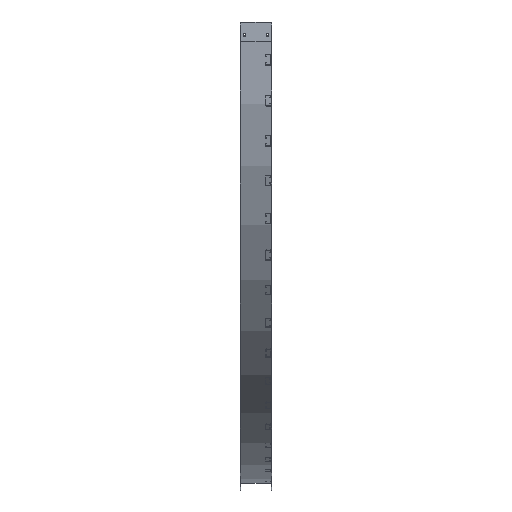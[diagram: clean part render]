
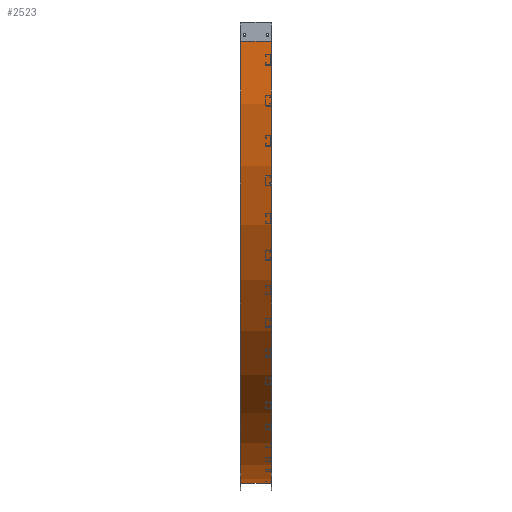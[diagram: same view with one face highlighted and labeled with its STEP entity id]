
A CAD part, left-side view. The second image highlights one B-rep face of the part: STEP entity #2523.
In plain terms, the highlighted cylindrical face has radius 1833.12 mm (diameter 3666.24 mm), a partial arc.
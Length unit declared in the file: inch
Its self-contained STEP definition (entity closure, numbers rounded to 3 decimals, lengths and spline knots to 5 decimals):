
#1560=CARTESIAN_POINT('',(-4.995,-72.09,3.));
#1561=DIRECTION('',(1.,0.,0.));
#1562=DIRECTION('',(0.,1.,0.));
#1563=AXIS2_PLACEMENT_3D('',#1560,#1561,#1562);
#1753=DIRECTION('',(-1.,0.,0.));
#1754=VECTOR('',#1753,4.91);
#1755=CARTESIAN_POINT('',(-0.085,-72.09,75.17));
#1756=LINE('',#1755,#1754);
#1793=DIRECTION('',(-1.,0.,0.));
#1794=VECTOR('',#1793,4.91);
#1795=CARTESIAN_POINT('',(-0.085,0.08,3.));
#1796=LINE('',#1795,#1794);
#1797=CARTESIAN_POINT('',(-0.085,-72.09,3.));
#1798=DIRECTION('',(1.,0.,0.));
#1799=DIRECTION('',(0.,1.,0.));
#1800=AXIS2_PLACEMENT_3D('',#1797,#1798,#1799);
#1924=CARTESIAN_POINT('',(-0.085,0.08,3.));
#1925=CARTESIAN_POINT('',(-4.995,0.08,3.));
#1926=VERTEX_POINT('',#1924);
#1927=VERTEX_POINT('',#1925);
#1948=CARTESIAN_POINT('',(-0.085,-72.09,75.17));
#1949=CARTESIAN_POINT('',(-4.995,-72.09,75.17));
#1950=VERTEX_POINT('',#1948);
#1951=VERTEX_POINT('',#1949);
#2512=CARTESIAN_POINT('',(-1.,-72.09,3.));
#2513=DIRECTION('',(1.,0.,0.));
#2514=DIRECTION('',(0.,-1.,0.));
#2515=AXIS2_PLACEMENT_3D('',#2512,#2513,#2514);
#2516=CYLINDRICAL_SURFACE('',#2515,72.17);
#2517=ORIENTED_EDGE('',*,*,#2297,.F.);
#2518=ORIENTED_EDGE('',*,*,#2338,.T.);
#2519=ORIENTED_EDGE('',*,*,#2485,.T.);
#2520=ORIENTED_EDGE('',*,*,#2275,.F.);
#2521=EDGE_LOOP('',(#2517,#2518,#2519,#2520));
#2522=FACE_OUTER_BOUND('',#2521,.F.);
#2523=ADVANCED_FACE('',(#2522),#2516,.T.);
#1564=CIRCLE('',#1563,72.17);
#1801=CIRCLE('',#1800,72.17);
#2275=EDGE_CURVE('',#1927,#1951,#1564,.T.);
#2297=EDGE_CURVE('',#1926,#1927,#1796,.T.);
#2338=EDGE_CURVE('',#1926,#1950,#1801,.T.);
#2485=EDGE_CURVE('',#1950,#1951,#1756,.T.);
